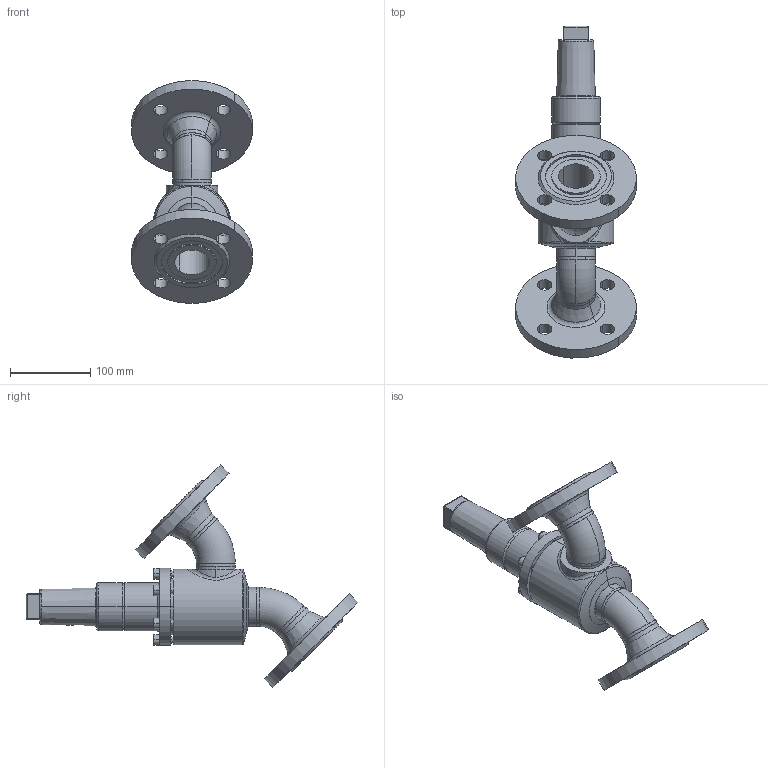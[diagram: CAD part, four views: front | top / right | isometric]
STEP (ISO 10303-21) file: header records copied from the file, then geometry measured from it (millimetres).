
FILE_DESCRIPTION (( 'STEP AP214' ), '1' );
FILE_NAME ('RVA29320D14-DN040_DIN-FL-N_PS40.STEP', '2006-04-28T05:36:20', ( 'Herr Grams' ), ( 'AWP GmbH' ), 'SwSTEP 2.0', 'SolidWorks 2002296', '' );
FILE_SCHEMA (( 'AUTOMOTIVE_DESIGN' ));
Length unit declared in the file: millimetre
Products named in the file (14): RVA29320D14-DN040_DIN-FL-N_PS40; RVA29300E15_Deck-Schr-DN40-50_Standard; Deckel29300E15-DN40-50_Standard; Zylinderschraube-DIN912_M 8x 25; Gehäuse-kpl16320-DN040_DIN_PS40_Standard; Gehäuse-kpl16300-DN040_R1_Standard; Gehäuse16300-DN040_Standard; Rohrbogen 45°_R1-Fase_Rohrbogen-DN040-45°; bead16300-Geh-040-1_Standard; bead16300-Geh-040-2_Standard; Flansch-DIN2635-Nut_PS40_DIN-Flansch-DN040_PS40-Nut; bead16320-DN040-2_Standard; bead16320-DN040-1_Standard; Kappe16402_DN040-65_Standard
Assembly tree (20 placements, depth 4):
  RVA29320D14-DN040_DIN-FL-N_PS40
    RVA29300E15_Deck-Schr-DN40-50_Standard
      Zylinderschraube-DIN912_M 8x 25  x6
      Deckel29300E15-DN40-50_Standard
    Gehäuse-kpl16320-DN040_DIN_PS40_Standard
      Gehäuse-kpl16300-DN040_R1_Standard
        Rohrbogen 45°_R1-Fase_Rohrbogen-DN040-45°  x2
        bead16300-Geh-040-2_Standard
        bead16300-Geh-040-1_Standard
        Gehäuse16300-DN040_Standard
      bead16320-DN040-1_Standard
      bead16320-DN040-2_Standard
      Flansch-DIN2635-Nut_PS40_DIN-Flansch-DN040_PS40-Nut  x2
    Kappe16402_DN040-65_Standard
Bounding box: 149.43 x 412.54 x 276.47 mm (x, y, z)
Volume: 1432266.7 mm3; surface area: 278466.9 mm2
Topology: 17 solids, 17 shells, 351 faces, 819 edges, 520 vertices
Faces by surface type: cylinder 123, plane 106, cone 66, torus 37, bspline 19
Entity records: 53918 total; most frequent: CARTESIAN_POINT 48104, DIRECTION 1078, ORIENTED_EDGE 1050, EDGE_CURVE 525, AXIS2_PLACEMENT_3D 459, VERTEX_POINT 334, EDGE_LOOP 263, CIRCLE 233
